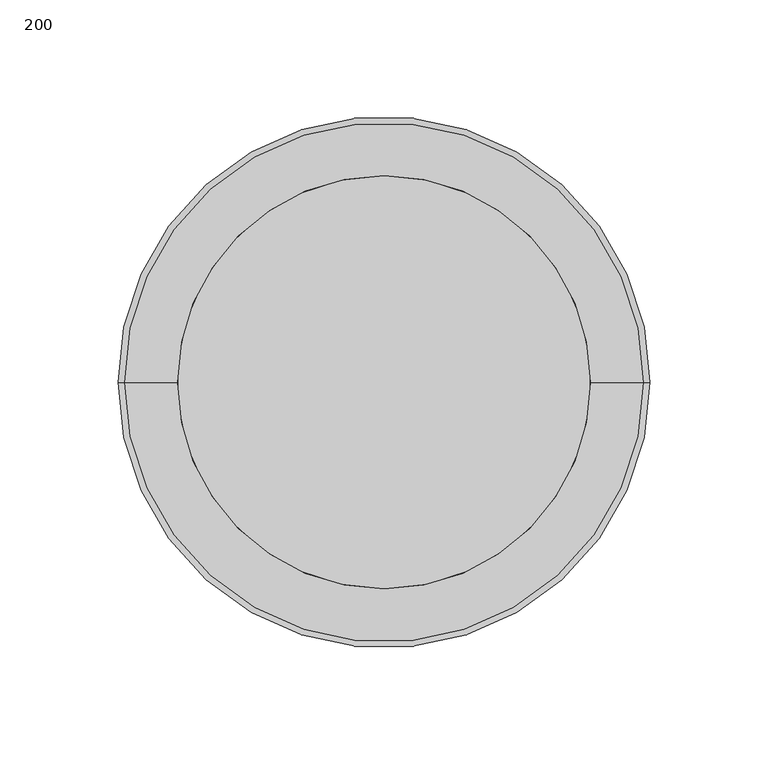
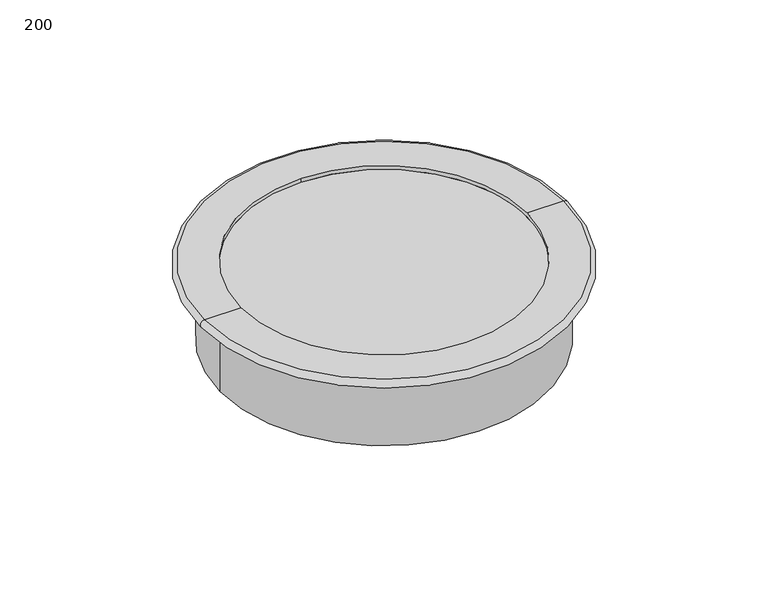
"""IFC4 building model written with IfcOpenShell, lengths in millimetres: duct fitting geometry, HEATPEX - ARIA ADURO - Czerpnia płaska : 200."""

from ifc_helpers import new_model, si_unit, point, frame, origin, origin_2d, place, context, project, spatial, polyline, circle_curve, ellipse_curve, trimmed, segment, composite_curve, outline, extrude, source, transform, mapped, element, save
from ifc_brep_helpers import plane_surface, revolved_surface, advanced_brep


def duct_fitting_200_79083b61(model_context):
    return source(origin(), model_context, "Body", "SolidModel", [
        advanced_brep(
        [(110.0, 0.0, 0.0), (-110.0, 0.0, 0.0), (-110.0, 0.0, 5.0), (110.0, 0.0, 5.0), (0.0, 0.0, 0.0), (-87.5, 0.0, 5.0), (0.0, 87.5, 5.0), (87.5, 0.0, 5.0), (0.0, -87.5, 5.0), (0.0, 87.5, 2.5), (0.0, -87.5, 2.5)],
        [
            (0, 1, circle_curve(frame((0.0, 0.0, 0.0), z_axis=(0.0, 0.0, 1.0), x_axis=(-1.0, 0.0, 0.0)), 110.0)),
            (1, 2, circle_curve(frame((-110.0, 0.0, 2.5), z_axis=(0.0, 1.0, 0.0), x_axis=(1.0, 0.0, 0.0)), 2.5)),
            (2, 3, circle_curve(frame((0.0, 0.0, 5.0), z_axis=(0.0, 0.0, -1.0), x_axis=(-1.0, 0.0, 0.0)), 110.0)),
            (3, 0, circle_curve(frame((110.0, 0.0, 2.5), z_axis=(0.0, 1.0, 0.0), x_axis=(-1.0, 0.0, 0.0)), 2.5)),
            (1, 0, circle_curve(frame((0.0, 0.0, 0.0), z_axis=(0.0, 0.0, 1.0), x_axis=(-1.0, 0.0, 0.0)), 110.0)),
            (3, 2, circle_curve(frame((0.0, 0.0, 5.0), z_axis=(0.0, 0.0, -1.0), x_axis=(-1.0, 0.0, 0.0)), 110.0)),
            (0, 4),
            (4, 1),
            (2, 5),
            (5, 6, circle_curve(frame((0.0, 0.0, 5.0), z_axis=(0.0, 0.0, -1.0), x_axis=(0.0, -1.0, 0.0)), 87.5)),
            (6, 7, circle_curve(frame((0.0, 0.0, 5.0), z_axis=(0.0, 0.0, -1.0), x_axis=(0.0, -1.0, 0.0)), 87.5)),
            (7, 3),
            (7, 8, circle_curve(frame((0.0, 0.0, 5.0), z_axis=(0.0, 0.0, -1.0), x_axis=(0.0, -1.0, 0.0)), 87.5)),
            (8, 5, circle_curve(frame((0.0, 0.0, 5.0), z_axis=(0.0, 0.0, -1.0), x_axis=(0.0, -1.0, 0.0)), 87.5)),
            (9, 10, circle_curve(frame((0.0, 0.0, 2.5), z_axis=(0.0, 0.0, 1.0), x_axis=(0.0, -1.0, 0.0)), 87.5)),
            (10, 9, circle_curve(frame((0.0, 0.0, 2.5), z_axis=(0.0, 0.0, 1.0), x_axis=(0.0, -1.0, 0.0)), 87.5)),
            (10, 8),
            (6, 9),
        ],
        [
            revolved_surface(trimmed(ellipse_curve(frame((-110.0, 0.0, 2.5), z_axis=(0.0, -1.0, 0.0), x_axis=(1.0, 0.0, 0.0)), 2.5, 2.5), [point((-110.0, 0.0, 5.0))], [point((-110.0, 0.0, 0.0))], True, "CARTESIAN"), (0.0, 0.0, 27.1065998), (0.0, 0.0, -1.0)),
            plane_surface(frame((0.0, 0.0, 0.0), z_axis=(0.0, 0.0, -1.0), x_axis=(-1.0, 0.0, 0.0))),
            plane_surface(frame((0.0, 0.0, 5.0), z_axis=(0.0, 0.0, 1.0), x_axis=(-1.0, 0.0, 0.0))),
            plane_surface(frame((0.0, 0.0, 2.5), z_axis=(0.0, 0.0, 1.0), x_axis=(1.0, 0.0, 0.0))),
            revolved_surface(polyline([(0.0, -87.5, 2.5), (0.0, -87.5, 5.0)]), (0.0, 0.0, 2.5), (0.0, 0.0, -1.0)),
        ],
        [
            (0, [[1, 2, 3, 4]]),
            (0, [[-2, 5, -4, 6]]),
            (1, [[-1, 7, 8]]),
            (1, [[-5, -8, -7]]),
            (2, [[-3, 9, 10, 11, 12]]),
            (2, [[-6, -12, 13, 14, -9]]),
            (3, [[15, 16]]),
            (4, [[-16, 17, -13, -11, 18]]),
            (4, [[-15, -18, -10, -14, -17]]),
        ],
    ),
        extrude(outline(composite_curve([segment(trimmed(circle_curve(origin_2d(), 100.0), [point((-100.0, 0.0))], [point((100.0, 0.0))], False, "CARTESIAN"), True, "CONTINUOUS"), segment(trimmed(circle_curve(origin_2d(), 100.0), [point((100.0, 0.0))], [point((-100.0, 0.0))], False, "CARTESIAN"), True, "CONTINUOUS")], self_intersect=False)), frame((0.0, 0.0, -45.0), z_axis=(0.0, 0.0, 1.0), x_axis=(1.0, 0.0, 0.0)), (0.0, 0.0, 1.0), 45.0),
    ])


if __name__ == "__main__":
    model = new_model("IFC4")
    model_context = context("Model", 3, world=origin())
    ifc_project = project(units=[si_unit("LENGTHUNIT", "METRE", prefix="MILLI")], contexts=[model_context])
    site = spatial("IfcSite", under=ifc_project)
    building = spatial("IfcBuilding", under=site)
    placement = place(None, origin())
    duct_fitting_200_shape = duct_fitting_200_79083b61(model_context)
    element("IfcDuctFitting", 1, ObjectType="HEATPEX - ARIA ADURO - Czerpnia płaska : 200", at=placement, inside=building, context=model_context, shape_type="MappedRepresentation", body=[
        mapped(duct_fitting_200_shape, transform((0.0, 0.0, 0.0), x_axis=(1.0, 0.0, 0.0), y_axis=(0.0, 1.0, 0.0), z_axis=(0.0, 0.0, 1.0))),
    ])
    save(model, "model.ifc")
